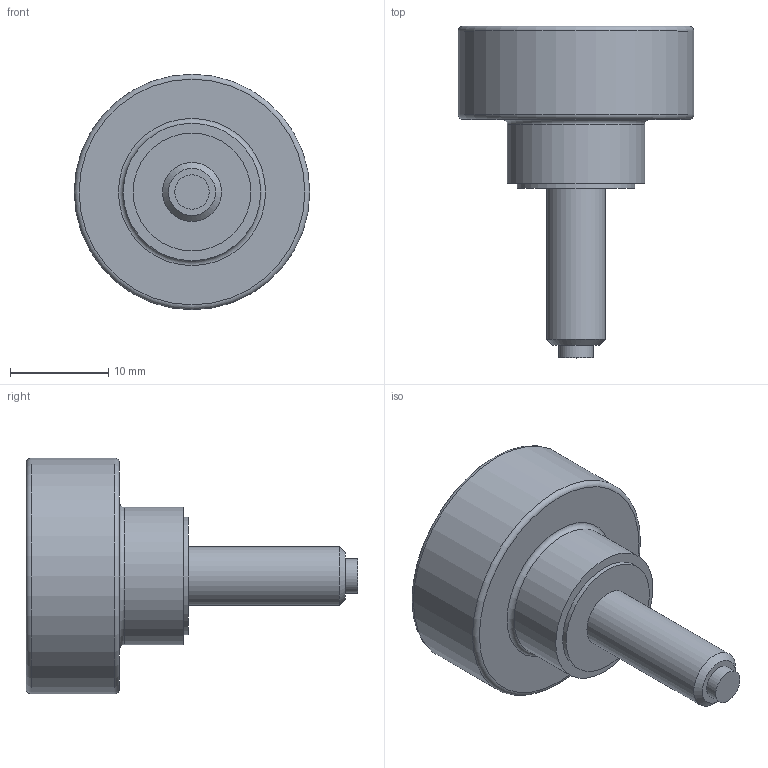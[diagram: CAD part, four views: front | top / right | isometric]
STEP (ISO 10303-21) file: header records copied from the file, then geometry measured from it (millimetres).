
FILE_DESCRIPTION( ( 'STEP AP203' ), '1' );
FILE_NAME( 'C:/Temp/Ganter_Step_05_03_2020/data/2_2/gn_421_10/Hollow knurled knob, with tip GN 421.10-M6-16-KU.stp', '2020-03-05T12:25:32', ( 'License CC BY-ND 4.0' ), ( 'CADENAS' ), ' ', 'PARTsolutions', ' ' );
FILE_SCHEMA( ( 'CONFIG_CONTROL_DESIGN' ) );
Length unit declared in the file: millimetre
Products named in the file (1): _Hollow knurled knob, with tip GN 421.10-M6-16-KU
Bounding box: 24 x 33.8 x 24 mm (x, y, z)
Volume: 3945.6 mm3; surface area: 2640.2 mm2
Topology: 1 solids, 1 shells, 19 faces, 30 edges, 19 vertices
Faces by surface type: plane 8, cylinder 7, torus 3, cone 1
Full cylindrical faces by diameter (mm): 3.5 x1, 6 x1, 10 x1, 12 x1, 14 x1, 20 x1, 24 x1
Entity records: 418 total; most frequent: DIRECTION 76, CARTESIAN_POINT 56, AXIS2_PLACEMENT_3D 38, EDGE_LOOP 36, ORIENTED_EDGE 36, FACE_OUTER_BOUND 29, ADVANCED_FACE 19, EDGE_CURVE 18
